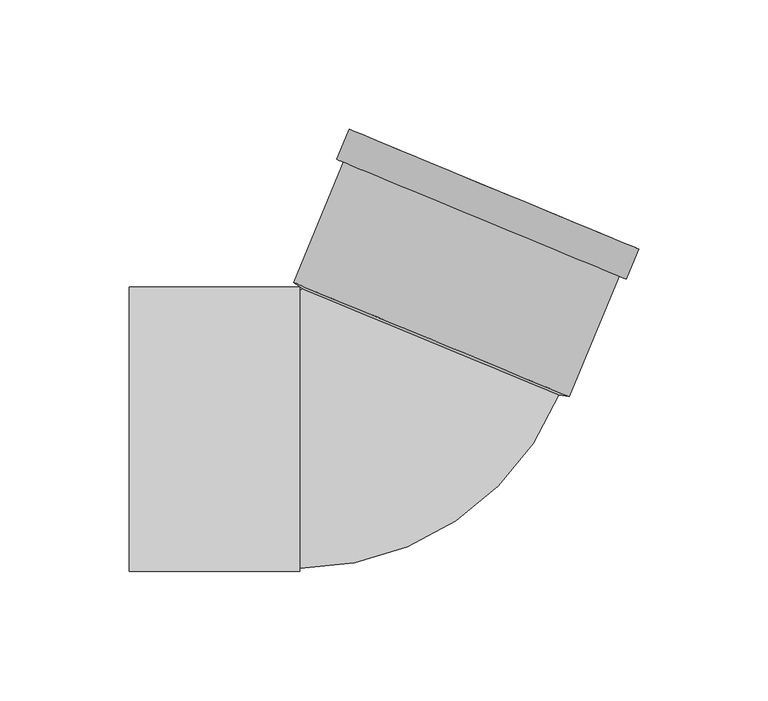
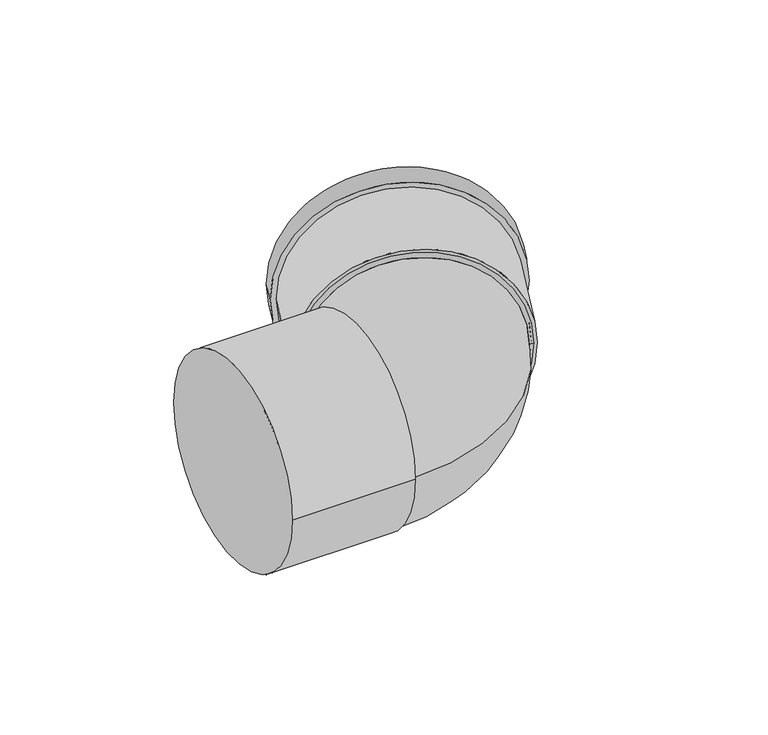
"""IFC4 building model written with IfcOpenShell, lengths in millimetres: pipe fitting geometry, Superdrain HT bend : Superdrain HT Bend."""

from ifc_helpers import new_model, si_unit, point, frame, origin, origin_2d, place, context, project, spatial, polyline, circle_curve, ellipse_curve, trimmed, segment, composite_curve, outline, extrude, source, transform, mapped, element, save
from ifc_brep_helpers import plane_surface, revolved_surface, advanced_brep


def pipe_fitting_02cc564f(model_context):
    return source(origin(), model_context, "Body", "SolidModel", [
        advanced_brep(
        [(63.6885477, 13.2348943, 0.0), (-35.6761205, 54.3930875, 0.0), (-36.6, -53.7757709, 0.0), (-36.6, 53.7757709, 0.0)],
        [
            (0, 1, circle_curve(frame((14.0062136, 33.8139909, 0.0), z_axis=(0.38268343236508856, 0.9238795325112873, 0.0), x_axis=(-0.9238795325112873, 0.38268343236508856, 0.0)), 53.7757709)),
            (1, 0, circle_curve(frame((14.0062136, 33.8139909, 0.0), z_axis=(0.38268343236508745, 0.9238795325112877, 0.0), x_axis=(-0.9238795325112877, 0.38268343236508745, 0.0)), 53.7757709)),
            (2, 3, circle_curve(frame((-36.6, 0.0, 0.0), z_axis=(-1.0, 0.0, 0.0), x_axis=(0.0, 1.0, 0.0)), 53.7757709)),
            (3, 2, circle_curve(frame((-36.6, 0.0, 0.0), z_axis=(-1.0, 0.0, 0.0), x_axis=(0.0, 1.0, 0.0)), 53.7757709)),
            (3, 1, circle_curve(frame((-36.6, 54.7757709, 0.0), z_axis=(0.0, 0.0, 1.0), x_axis=(1.0, 0.0, 0.0)), 1.0)),
            (0, 2, circle_curve(frame((-36.6, 54.7757709, 0.0), z_axis=(0.0, 0.0, -1.0), x_axis=(1.0, 0.0, 0.0)), 108.5515418)),
        ],
        [
            plane_surface(frame((14.0062136, 33.8139909, 0.0), z_axis=(0.3826834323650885, 0.9238795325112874, 0.0), x_axis=(0.0, 0.0, -1.0))),
            plane_surface(frame((-36.6, 0.0, 0.0), z_axis=(-1.0, 0.0, 0.0), x_axis=(0.0, 0.0, -1.0))),
            revolved_surface(trimmed(ellipse_curve(frame((18.1757709, 54.7757709, 0.0), z_axis=(0.0, -1.0, 0.0), x_axis=(-1.0, 0.0, 0.0)), 53.7757709, 53.7757709), [point((-35.6, 54.7757709, 0.0))], [point((71.9515418, 54.7757709, 0.0))], True, "CARTESIAN"), (-36.6, 54.7757709, 0.0), (0.0, 0.0, 1.0)),
            revolved_surface(trimmed(ellipse_curve(frame((18.1757709, 54.7757709, 0.0), z_axis=(0.0, -1.0, 0.0), x_axis=(-1.0, 0.0, 0.0)), 53.7757709, 53.7757709), [point((71.9515418, 54.7757709, 0.0))], [point((-35.6, 54.7757709, 0.0))], True, "CARTESIAN"), (-36.6, 54.7757709, 0.0), (0.0, 0.0, 1.0)),
        ],
        [
            (0, [[1, 2]]),
            (1, [[3, 4]]),
            (2, [[-4, 5, -1, 6]]),
            (3, [[-3, -6, -2, -5]]),
        ],
    ),
        extrude(outline(composite_curve([segment(trimmed(circle_curve(origin_2d(), 57.75), [point((0.0, 57.75))], [point((0.0, -57.75))], False, "CARTESIAN"), True, "CONTINUOUS"), segment(trimmed(circle_curve(origin_2d(), 57.75), [point((0.0, -57.75))], [point((0.0, 57.75))], False, "CARTESIAN"), True, "CONTINUOUS")], self_intersect=False), holes=[composite_curve([segment(trimmed(circle_curve(origin_2d(), 55.0), [point((0.0, 54.9999999))], [point((0.0, -55.0))], True, "CARTESIAN"), True, "CONTINUOUS"), segment(trimmed(circle_curve(origin_2d(), 55.0), [point((0.0, -55.0))], [point((0.0, 54.9999999))], True, "CARTESIAN"), True, "CONTINUOUS")], self_intersect=False)]), frame((14.3888971, 34.7378704, 0.0), z_axis=(0.3826834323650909, 0.9238795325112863, 0.0), x_axis=(0.0, 0.0, 1.0)), (0.0, 0.0, 1.0), 63.0),
        extrude(outline(composite_curve([segment(trimmed(circle_curve(origin_2d(), 60.6375), [point((0.0, -60.6374999))], [point((0.0, 60.6375001))], False, "CARTESIAN"), True, "CONTINUOUS"), segment(trimmed(circle_curve(origin_2d(), 60.6375), [point((0.0, 60.6375001))], [point((0.0, -60.6374999))], False, "CARTESIAN"), True, "CONTINUOUS")], self_intersect=False), holes=[composite_curve([segment(trimmed(circle_curve(origin_2d(), 55.0), [point((0.0, -54.9999999))], [point((0.0, 55.0))], True, "CARTESIAN"), True, "CONTINUOUS"), segment(trimmed(circle_curve(origin_2d(), 55.0), [point((0.0, 55.0))], [point((0.0, -54.9999999))], True, "CARTESIAN"), True, "CONTINUOUS")], self_intersect=False)]), frame((33.676142, 81.3013989, 0.0), z_axis=(0.38268343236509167, 0.923879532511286, 0.0), x_axis=(0.0, 0.0, 1.0)), (0.0, 0.0, 1.0), 12.6),
        advanced_brep(
        [(67.7429401, 12.6379022, 0.0), (-38.9651459, 56.8378386, 0.0), (63.6885477, 13.2348943, 0.0), (-35.6761205, 54.3930875, 0.0)],
        [
            (0, 1, circle_curve(frame((14.3888971, 34.7378704, 0.0), z_axis=(0.3826834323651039, 0.923879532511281, 0.0), x_axis=(0.923879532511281, -0.38268343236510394, 0.0)), 57.75)),
            (1, 0, circle_curve(frame((14.3888971, 34.7378704, 0.0), z_axis=(0.3826834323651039, 0.923879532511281, 0.0), x_axis=(-0.923879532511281, 0.3826834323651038, 0.0)), 57.75)),
            (2, 3, circle_curve(frame((14.0062136, 33.8139909, 0.0), z_axis=(-0.3826834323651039, -0.923879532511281, 0.0), x_axis=(-0.923879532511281, 0.3826834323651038, 0.0)), 53.7757709)),
            (3, 2, circle_curve(frame((14.0062136, 33.8139909, 0.0), z_axis=(-0.3826834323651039, -0.923879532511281, 0.0), x_axis=(0.923879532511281, -0.38268343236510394, 0.0)), 53.7757709)),
            (3, 1),
            (0, 2),
        ],
        [
            plane_surface(frame((14.3888971, 34.7378704, 0.0), z_axis=(0.3826834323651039, 0.923879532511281, 0.0), x_axis=(0.0, 0.0, -1.0))),
            plane_surface(frame((14.0062136, 33.8139909, 0.0), z_axis=(-0.3826834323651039, -0.923879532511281, 0.0), x_axis=(0.0, 0.0, -1.0))),
            revolved_surface(polyline([(-35.676120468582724, 54.39308747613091, 0.0), (-38.965146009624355, 56.8378386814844, 0.0)]), (8.8280782, 21.312866, 0.0), (0.3826834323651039, 0.923879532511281, 0.0)),
            revolved_surface(polyline([(63.68854768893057, 13.234894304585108, 0.0), (67.7429401, 12.6379022, 0.0)]), (8.8280782, 21.312866, 0.0), (0.3826834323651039, 0.923879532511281, 0.0)),
        ],
        [
            (0, [[1, 2]]),
            (1, [[3, 4]]),
            (2, [[-4, 5, -1, 6]]),
            (3, [[-3, -6, -2, -5]]),
        ],
    ),
        extrude(outline(composite_curve([segment(trimmed(circle_curve(origin_2d(), 55.0), [point((-55.0, 0.0))], [point((55.0, 0.0))], False, "CARTESIAN"), True, "CONTINUOUS"), segment(trimmed(circle_curve(origin_2d(), 55.0), [point((55.0, 0.0))], [point((-55.0, 0.0))], False, "CARTESIAN"), True, "CONTINUOUS")], self_intersect=False)), frame((-102.5, 0.0, 0.0), z_axis=(1.0, 0.0, 0.0), x_axis=(0.0, 1.0, 0.0)), (0.0, 0.0, 1.0), 65.9),
    ])


if __name__ == "__main__":
    model = new_model("IFC4")
    model_context = context("Model", 3, world=origin())
    ifc_project = project(units=[si_unit("LENGTHUNIT", "METRE", prefix="MILLI")], contexts=[model_context])
    site = spatial("IfcSite", under=ifc_project)
    building = spatial("IfcBuilding", under=site)
    placement = place(None, origin())
    pipe_fitting_shape = pipe_fitting_02cc564f(model_context)
    element("IfcPipeFitting", 1, ObjectType="Superdrain HT bend : Superdrain HT Bend", at=placement, inside=building, context=model_context, shape_type="MappedRepresentation", body=[
        mapped(pipe_fitting_shape, transform((0.0, 0.0, 0.0), x_axis=(1.0, 0.0, 0.0), y_axis=(0.0, 1.0, 0.0), z_axis=(0.0, 0.0, 1.0))),
    ])
    save(model, "model.ifc")
